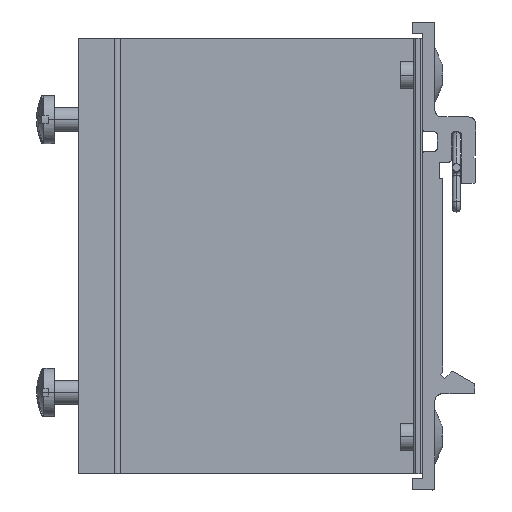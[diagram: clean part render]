
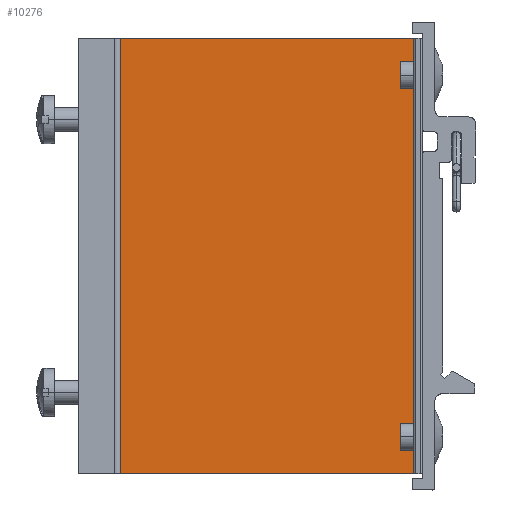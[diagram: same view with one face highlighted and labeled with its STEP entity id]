
A CAD part, left-side view. The second image highlights one B-rep face of the part: STEP entity #10276.
In plain terms, the highlighted planar face has unit normal (-1, 0, 0).
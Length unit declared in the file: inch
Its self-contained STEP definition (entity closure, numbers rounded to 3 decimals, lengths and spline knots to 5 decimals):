
#6751 = LINE ( 'NONE', #8551, #38834 ) ;
#6754 = LINE ( 'NONE', #8553, #38835 ) ;
#6755 = LINE ( 'NONE', #8555, #38836 ) ;
#6758 = LINE ( 'NONE', #8557, #38837 ) ;
#7046 = FACE_OUTER_BOUND ( 'NONE', #13424, .T. ) ;
#8551 = CARTESIAN_POINT ( 'NONE',  ( -2.27111, -2.34009, -1.58328 ) ) ;
#8552 = DIRECTION ( 'NONE',  ( 0., 0., 1. ) ) ;
#8553 = CARTESIAN_POINT ( 'NONE',  ( -2.27111, -1.33109, -3.08328 ) ) ;
#8554 = DIRECTION ( 'NONE',  ( 0., -1., 0. ) ) ;
#8555 = CARTESIAN_POINT ( 'NONE',  ( -2.27111, -1.33109, -0.08328 ) ) ;
#8556 = DIRECTION ( 'NONE',  ( 0., 1., 0. ) ) ;
#8557 = CARTESIAN_POINT ( 'NONE',  ( -2.27111, -0.32209, -1.58328 ) ) ;
#8558 = DIRECTION ( 'NONE',  ( 0., 0., -1. ) ) ;
#10124 = EDGE_CURVE ( 'NONE', #16778, #16777, #6751, .T. ) ;
#10125 = EDGE_CURVE ( 'NONE', #16779, #16778, #6754, .T. ) ;
#10126 = EDGE_CURVE ( 'NONE', #16777, #16776, #6755, .T. ) ;
#10127 = EDGE_CURVE ( 'NONE', #16776, #16779, #6758, .T. ) ;
#10276 = ADVANCED_FACE ( 'NONE', ( #7046 ), #13283, .T. ) ;
#13283 = PLANE ( 'NONE',  #19962 ) ;
#13284 = CARTESIAN_POINT ( 'NONE',  ( -2.27111, -2.34009, -3.08328 ) ) ;
#13285 = DIRECTION ( 'NONE',  ( -1., 0., 0. ) ) ;
#13286 = DIRECTION ( 'NONE',  ( 0., 0., 1. ) ) ;
#13424 = EDGE_LOOP ( 'NONE', ( #25337, #25335, #25336, #25334 ) ) ;
#16776 = VERTEX_POINT ( 'NONE', #22973 ) ;
#16777 = VERTEX_POINT ( 'NONE', #22974 ) ;
#16778 = VERTEX_POINT ( 'NONE', #22975 ) ;
#16779 = VERTEX_POINT ( 'NONE', #22976 ) ;
#19962 = AXIS2_PLACEMENT_3D ( 'NONE', #13284, #13285, #13286 ) ;
#22973 = CARTESIAN_POINT ( 'NONE',  ( -2.27111, -0.32209, -0.08328 ) ) ;
#22974 = CARTESIAN_POINT ( 'NONE',  ( -2.27111, -2.34009, -0.08328 ) ) ;
#22975 = CARTESIAN_POINT ( 'NONE',  ( -2.27111, -2.34009, -3.08328 ) ) ;
#22976 = CARTESIAN_POINT ( 'NONE',  ( -2.27111, -0.32209, -3.08328 ) ) ;
#25334 = ORIENTED_EDGE ( 'NONE', *, *, #10127, .T. ) ;
#25335 = ORIENTED_EDGE ( 'NONE', *, *, #10124, .T. ) ;
#25336 = ORIENTED_EDGE ( 'NONE', *, *, #10126, .T. ) ;
#25337 = ORIENTED_EDGE ( 'NONE', *, *, #10125, .T. ) ;
#38834 = VECTOR ( 'NONE', #8552, 39.37008 ) ;
#38835 = VECTOR ( 'NONE', #8554, 39.37008 ) ;
#38836 = VECTOR ( 'NONE', #8556, 39.37008 ) ;
#38837 = VECTOR ( 'NONE', #8558, 39.37008 ) ;
